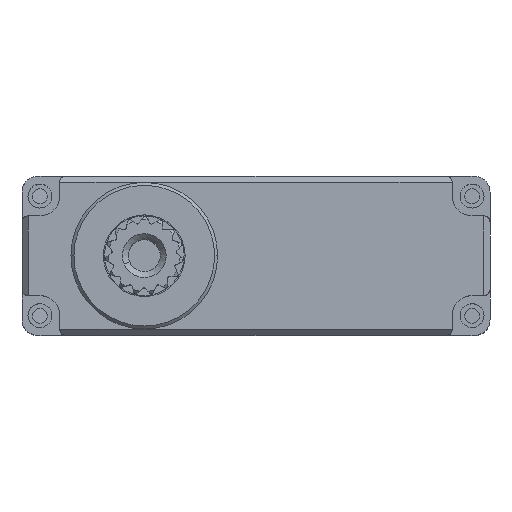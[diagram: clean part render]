
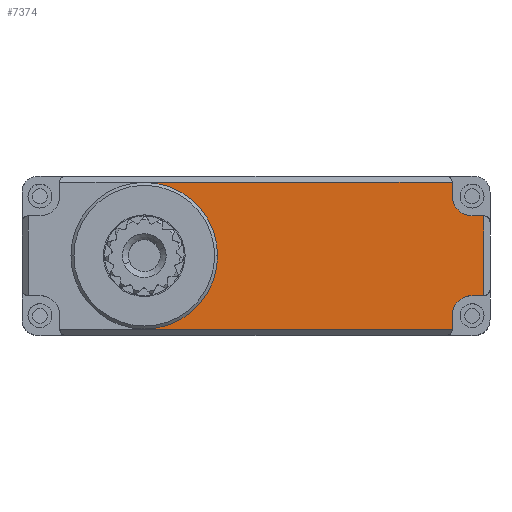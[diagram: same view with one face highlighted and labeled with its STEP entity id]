
A CAD part, top view. The second image highlights one B-rep face of the part: STEP entity #7374.
In plain terms, the highlighted planar face has unit normal (0, 0, 1).
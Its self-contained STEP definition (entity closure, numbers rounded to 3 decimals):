
#27 = DIRECTION ( 'NONE',  ( -1., 0., 0. ) ) ;
#264 = CARTESIAN_POINT ( 'NONE',  ( -16.726, -13.345, 13.825 ) ) ;
#329 = CARTESIAN_POINT ( 'NONE',  ( -4.949, -11.345, 13.825 ) ) ;
#377 = VERTEX_POINT ( 'NONE', #10555 ) ;
#583 = CIRCLE ( 'NONE', #7805, 3.683 ) ;
#643 = DIRECTION ( 'NONE',  ( 1., 0., 0. ) ) ;
#772 = ORIENTED_EDGE ( 'NONE', *, *, #6645, .F. ) ;
#892 = LINE ( 'NONE', #329, #6196 ) ;
#1136 = LINE ( 'NONE', #6806, #6027 ) ;
#1213 = VERTEX_POINT ( 'NONE', #4781 ) ;
#1219 = VECTOR ( 'NONE', #27, 1000. ) ;
#1407 = CARTESIAN_POINT ( 'NONE',  ( -4.949, -10.345, 13.825 ) ) ;
#1620 = DIRECTION ( 'NONE',  ( 1., 0., 0. ) ) ;
#1647 = EDGE_CURVE ( 'NONE', #1213, #6719, #9332, .T. ) ;
#1762 = CARTESIAN_POINT ( 'NONE',  ( -20.409, -13.345, 13.825 ) ) ;
#1763 = CARTESIAN_POINT ( 'NONE',  ( -3.099, -9.662, 13.825 ) ) ;
#1803 = DIRECTION ( 'NONE',  ( -1., 0., 0. ) ) ;
#2157 = CARTESIAN_POINT ( 'NONE',  ( -3.366, -15.345, 13.825 ) ) ;
#2430 = ORIENTED_EDGE ( 'NONE', *, *, #2780, .T. ) ;
#2596 = DIRECTION ( 'NONE',  ( 0., 0., 1. ) ) ;
#2780 = EDGE_CURVE ( 'NONE', #7962, #10337, #5299, .T. ) ;
#2850 = DIRECTION ( 'NONE',  ( 1., 0., 0. ) ) ;
#2987 = CARTESIAN_POINT ( 'NONE',  ( -4.949, -9.345, 13.825 ) ) ;
#3057 = VERTEX_POINT ( 'NONE', #6243 ) ;
#3168 = ORIENTED_EDGE ( 'NONE', *, *, #1647, .T. ) ;
#3186 = FACE_OUTER_BOUND ( 'NONE', #4320, .T. ) ;
#3737 = CIRCLE ( 'NONE', #9583, 3.683 ) ;
#4086 = EDGE_CURVE ( 'NONE', #6719, #9391, #10974, .T. ) ;
#4152 = EDGE_CURVE ( 'NONE', #5699, #3057, #892, .T. ) ;
#4320 = EDGE_LOOP ( 'NONE', ( #6465, #9726, #2430, #10687, #772, #3168, #6793, #10937, #8930, #10182, #4565 ) ) ;
#4565 = ORIENTED_EDGE ( 'NONE', *, *, #4152, .T. ) ;
#4604 = DIRECTION ( 'NONE',  ( -1., 0., 0. ) ) ;
#4755 = EDGE_CURVE ( 'NONE', #7962, #4924, #10573, .T. ) ;
#4774 = DIRECTION ( 'NONE',  ( 0., 0., -1. ) ) ;
#4781 = CARTESIAN_POINT ( 'NONE',  ( -20.415, -17.028, 13.825 ) ) ;
#4917 = DIRECTION ( 'NONE',  ( 0., 0., -1. ) ) ;
#4924 = VERTEX_POINT ( 'NONE', #1407 ) ;
#4945 = EDGE_CURVE ( 'NONE', #7035, #5699, #6695, .T. ) ;
#5299 = LINE ( 'NONE', #1763, #1219 ) ;
#5493 = DIRECTION ( 'NONE',  ( 0., -1., 0. ) ) ;
#5572 = CIRCLE ( 'NONE', #7276, 1. ) ;
#5604 = EDGE_CURVE ( 'NONE', #3057, #4924, #5572, .T. ) ;
#5659 = DIRECTION ( 'NONE',  ( 1., 0., 0. ) ) ;
#5699 = VERTEX_POINT ( 'NONE', #8195 ) ;
#6027 = VECTOR ( 'NONE', #1620, 1000. ) ;
#6196 = VECTOR ( 'NONE', #4604, 1000. ) ;
#6243 = CARTESIAN_POINT ( 'NONE',  ( -3.949, -11.345, 13.825 ) ) ;
#6248 = CARTESIAN_POINT ( 'NONE',  ( -3.099, -9.705, 13.825 ) ) ;
#6316 = CARTESIAN_POINT ( 'NONE',  ( -20.409, -13.345, 13.825 ) ) ;
#6408 = VERTEX_POINT ( 'NONE', #264 ) ;
#6465 = ORIENTED_EDGE ( 'NONE', *, *, #5604, .T. ) ;
#6529 = CARTESIAN_POINT ( 'NONE',  ( -4.949, -9.662, 13.825 ) ) ;
#6645 = EDGE_CURVE ( 'NONE', #1213, #6408, #583, .T. ) ;
#6695 = LINE ( 'NONE', #7453, #9091 ) ;
#6719 = VERTEX_POINT ( 'NONE', #7552 ) ;
#6793 = ORIENTED_EDGE ( 'NONE', *, *, #4086, .T. ) ;
#6806 = CARTESIAN_POINT ( 'NONE',  ( -3.049, -15.345, 13.825 ) ) ;
#7035 = VERTEX_POINT ( 'NONE', #2157 ) ;
#7276 = AXIS2_PLACEMENT_3D ( 'NONE', #7437, #4774, #5659 ) ;
#7374 = ADVANCED_FACE ( 'NONE', ( #3186 ), #10361, .T. ) ;
#7422 = DIRECTION ( 'NONE',  ( -1., 0., 0. ) ) ;
#7437 = CARTESIAN_POINT ( 'NONE',  ( -3.949, -10.345, 13.825 ) ) ;
#7453 = CARTESIAN_POINT ( 'NONE',  ( -3.366, -9.705, 13.825 ) ) ;
#7469 = VECTOR ( 'NONE', #8012, 1000. ) ;
#7552 = CARTESIAN_POINT ( 'NONE',  ( -4.949, -17.028, 13.825 ) ) ;
#7581 = EDGE_CURVE ( 'NONE', #6408, #10337, #3737, .T. ) ;
#7632 = CARTESIAN_POINT ( 'NONE',  ( -20.412, -9.662, 13.825 ) ) ;
#7805 = AXIS2_PLACEMENT_3D ( 'NONE', #1762, #2596, #1803 ) ;
#7962 = VERTEX_POINT ( 'NONE', #6529 ) ;
#8012 = DIRECTION ( 'NONE',  ( 1., 0., 0. ) ) ;
#8044 = DIRECTION ( 'NONE',  ( 0., 1., 0. ) ) ;
#8195 = CARTESIAN_POINT ( 'NONE',  ( -3.366, -11.345, 13.825 ) ) ;
#8217 = DIRECTION ( 'NONE',  ( 0., 0., 1. ) ) ;
#8453 = EDGE_CURVE ( 'NONE', #9391, #377, #8979, .T. ) ;
#8673 = AXIS2_PLACEMENT_3D ( 'NONE', #6248, #10438, #2850 ) ;
#8930 = ORIENTED_EDGE ( 'NONE', *, *, #10797, .T. ) ;
#8979 = CIRCLE ( 'NONE', #10128, 1. ) ;
#8999 = CARTESIAN_POINT ( 'NONE',  ( -4.949, -16.345, 13.825 ) ) ;
#9091 = VECTOR ( 'NONE', #11021, 1000. ) ;
#9165 = CARTESIAN_POINT ( 'NONE',  ( -3.949, -16.345, 13.825 ) ) ;
#9332 = LINE ( 'NONE', #10466, #7469 ) ;
#9391 = VERTEX_POINT ( 'NONE', #8999 ) ;
#9502 = VECTOR ( 'NONE', #8044, 1000. ) ;
#9583 = AXIS2_PLACEMENT_3D ( 'NONE', #6316, #8217, #7422 ) ;
#9633 = CARTESIAN_POINT ( 'NONE',  ( -4.949, -9.705, 13.825 ) ) ;
#9726 = ORIENTED_EDGE ( 'NONE', *, *, #4755, .F. ) ;
#10128 = AXIS2_PLACEMENT_3D ( 'NONE', #9165, #4917, #643 ) ;
#10182 = ORIENTED_EDGE ( 'NONE', *, *, #4945, .T. ) ;
#10337 = VERTEX_POINT ( 'NONE', #7632 ) ;
#10361 = PLANE ( 'NONE',  #8673 ) ;
#10438 = DIRECTION ( 'NONE',  ( 0., 0., 1. ) ) ;
#10466 = CARTESIAN_POINT ( 'NONE',  ( -3.099, -17.028, 13.825 ) ) ;
#10555 = CARTESIAN_POINT ( 'NONE',  ( -3.949, -15.345, 13.825 ) ) ;
#10573 = LINE ( 'NONE', #2987, #10832 ) ;
#10687 = ORIENTED_EDGE ( 'NONE', *, *, #7581, .F. ) ;
#10797 = EDGE_CURVE ( 'NONE', #377, #7035, #1136, .T. ) ;
#10832 = VECTOR ( 'NONE', #5493, 1000. ) ;
#10937 = ORIENTED_EDGE ( 'NONE', *, *, #8453, .T. ) ;
#10974 = LINE ( 'NONE', #9633, #9502 ) ;
#11021 = DIRECTION ( 'NONE',  ( 0., 1., 0. ) ) ;
